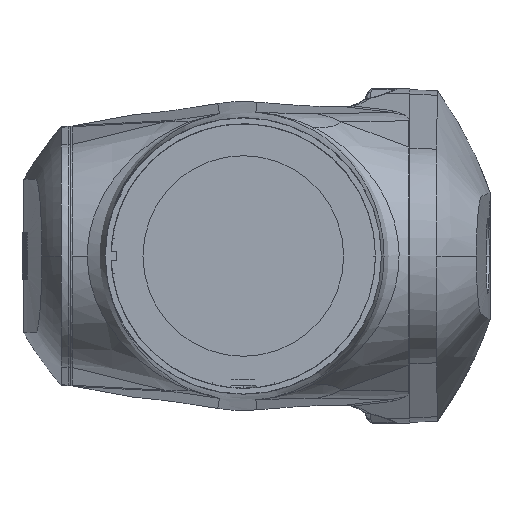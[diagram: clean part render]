
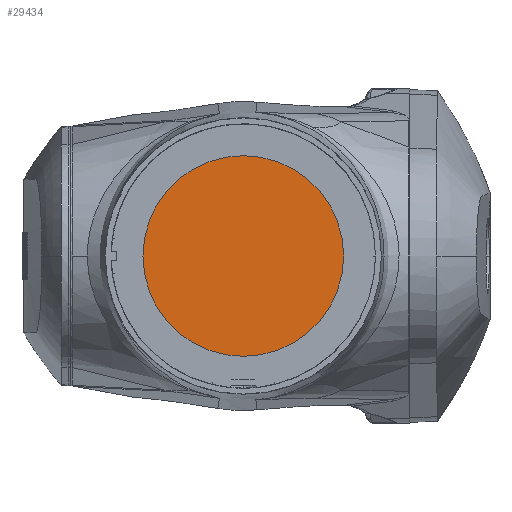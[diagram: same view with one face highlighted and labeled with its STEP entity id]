
A CAD part, left-side view. The second image highlights one B-rep face of the part: STEP entity #29434.
In plain terms, the highlighted planar face has unit normal (-1, 0, 0).
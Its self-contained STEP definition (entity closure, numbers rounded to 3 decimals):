
#95 = AXIS2_PLACEMENT_3D ( 'NONE', #7949, #34891, #42064 ) ;
#1203 = CARTESIAN_POINT ( 'NONE',  ( 117., 0., 2165. ) ) ;
#6140 = ORIENTED_EDGE ( 'NONE', *, *, #15308, .T. ) ;
#6666 = EDGE_CURVE ( 'NONE', #41370, #32458, #17799, .T. ) ;
#7949 = CARTESIAN_POINT ( 'NONE',  ( 117., 0., 2165. ) ) ;
#8659 = CIRCLE ( 'NONE', #95, 84.999 ) ;
#12747 = DIRECTION ( 'NONE',  ( 0., -1., 0. ) ) ;
#15308 = EDGE_CURVE ( 'NONE', #32458, #41370, #8659, .T. ) ;
#16219 = CARTESIAN_POINT ( 'NONE',  ( 117., 84.999, 2165. ) ) ;
#16584 = ORIENTED_EDGE ( 'NONE', *, *, #6666, .T. ) ;
#17799 = CIRCLE ( 'NONE', #29932, 84.999 ) ;
#19939 = AXIS2_PLACEMENT_3D ( 'NONE', #30305, #27002, #12747 ) ;
#23169 = PLANE ( 'NONE',  #19939 ) ;
#27002 = DIRECTION ( 'NONE',  ( -1., 0., 0. ) ) ;
#27317 = CARTESIAN_POINT ( 'NONE',  ( 117., -84.999, 2165. ) ) ;
#29434 = ADVANCED_FACE ( 'NONE', ( #36533 ), #23169, .T. ) ;
#29932 = AXIS2_PLACEMENT_3D ( 'NONE', #1203, #32356, #31709 ) ;
#30305 = CARTESIAN_POINT ( 'NONE',  ( 117., 0., 2165. ) ) ;
#31709 = DIRECTION ( 'NONE',  ( 0., -1., 0. ) ) ;
#32246 = EDGE_LOOP ( 'NONE', ( #16584, #6140 ) ) ;
#32356 = DIRECTION ( 'NONE',  ( -1., 0., 0. ) ) ;
#32458 = VERTEX_POINT ( 'NONE', #16219 ) ;
#34891 = DIRECTION ( 'NONE',  ( -1., 0., 0. ) ) ;
#36533 = FACE_OUTER_BOUND ( 'NONE', #32246, .T. ) ;
#41370 = VERTEX_POINT ( 'NONE', #27317 ) ;
#42064 = DIRECTION ( 'NONE',  ( 0., -1., 0. ) ) ;
